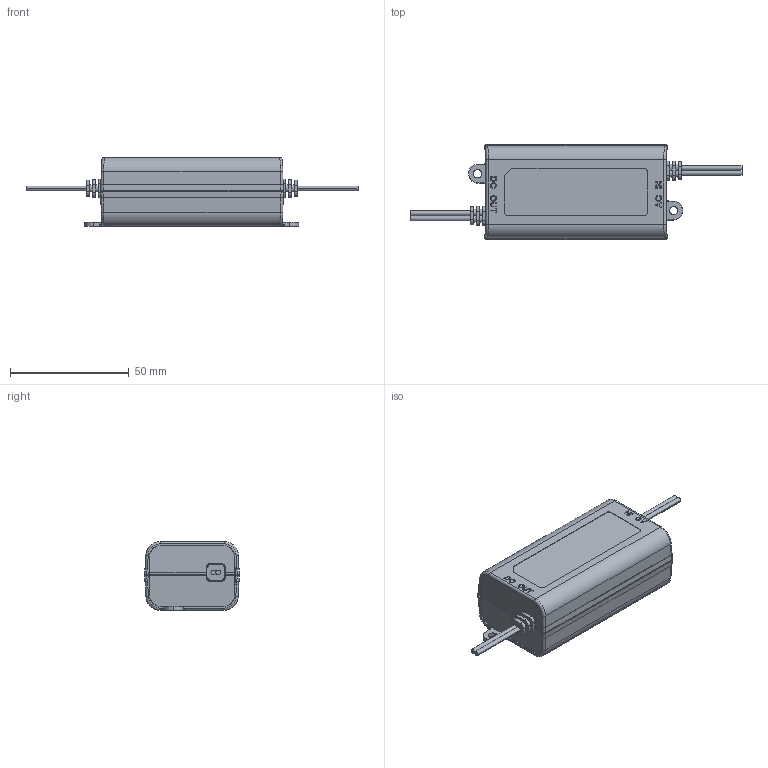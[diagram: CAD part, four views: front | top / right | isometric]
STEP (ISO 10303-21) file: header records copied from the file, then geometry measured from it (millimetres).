
FILE_DESCRIPTION(('Creo Elements/Direct Modeling STEP Export'),'2;1');
FILE_NAME('APV-16.stp','2017-07-12T15:07:26',(''),(''),'PTC Creo Elements/Direct Modeling STEP processor for AP214 (Solid Model)','PTC Creo Elements/Direct Modeling 19.0 09-May-2014 (C) Parametric Technology GmbH','');
FILE_SCHEMA(('AUTOMOTIVE_DESIGN { 1 0 10303 214 1 1 1 1 }'));
Length unit declared in the file: millimetre
Products named in the file (2): ÊW£\; APV-16
Assembly tree (1 placements, depth 2):
  APV-16
    ÊW£\
Bounding box: 139.69 x 40.12 x 29 mm (x, y, z)
Volume: 23288.3 mm3; surface area: 25079.4 mm2
Topology: 1 solids, 1 shells, 839 faces, 2368 edges, 1548 vertices
Faces by surface type: plane 624, cylinder 171, torus 24, bspline 12, sphere 8
Entity records: 27375 total; most frequent: CARTESIAN_POINT 5563, ORIENTED_EDGE 4724, DIRECTION 4158, EDGE_CURVE 2360, VECTOR 1928, LINE 1928, VERTEX_POINT 1548, AXIS2_PLACEMENT_3D 1115
